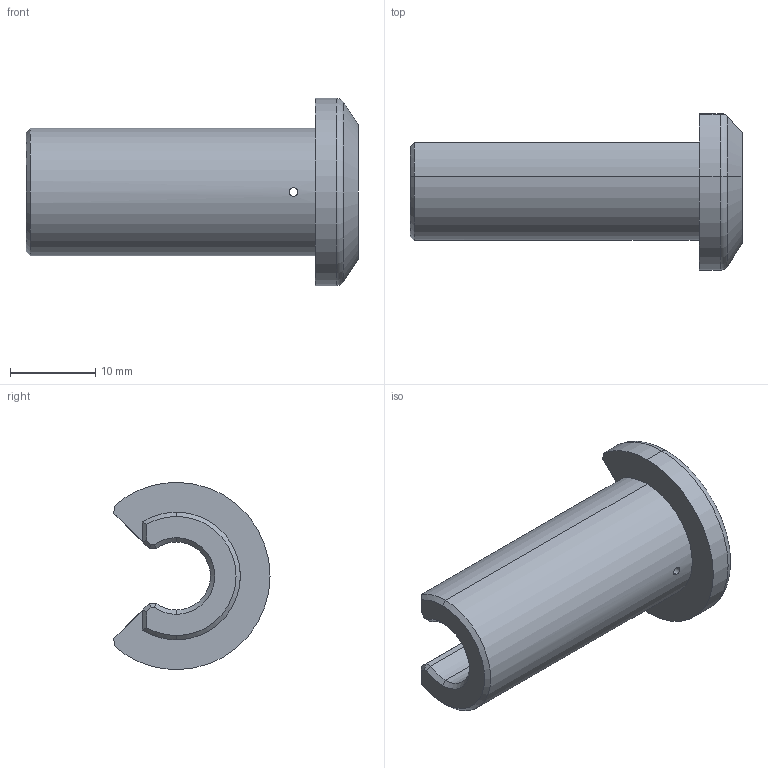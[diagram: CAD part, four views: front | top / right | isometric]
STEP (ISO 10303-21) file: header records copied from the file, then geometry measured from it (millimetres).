
FILE_DESCRIPTION (( 'STEP AP214' ), '1' );
FILE_NAME ('Holder PTFE.STEP', '2022-07-11T07:17:39', ( '' ), ( '' ), 'SwSTEP 2.0', 'SolidWorks 2022', '' );
FILE_SCHEMA (( 'AUTOMOTIVE_DESIGN' ));
Length unit declared in the file: millimetre
Products named in the file (1): Holder PTFE
Bounding box: 39 x 18.34 x 22 mm (x, y, z)
Volume: 3900.9 mm3; surface area: 2787.7 mm2
Topology: 1 solids, 1 shells, 62 faces, 154 edges, 94 vertices
Faces by surface type: plane 20, cone 18, cylinder 17, bspline 4, torus 3
Entity records: 1951 total; most frequent: CARTESIAN_POINT 484, ORIENTED_EDGE 308, DIRECTION 288, EDGE_CURVE 154, AXIS2_PLACEMENT_3D 109, VERTEX_POINT 94, VECTOR 70, LINE 70
